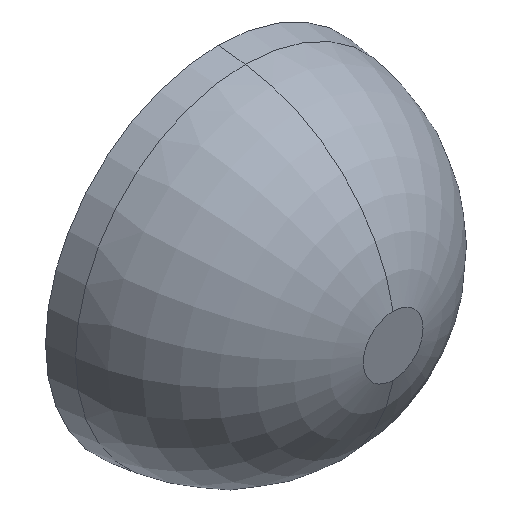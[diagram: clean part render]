
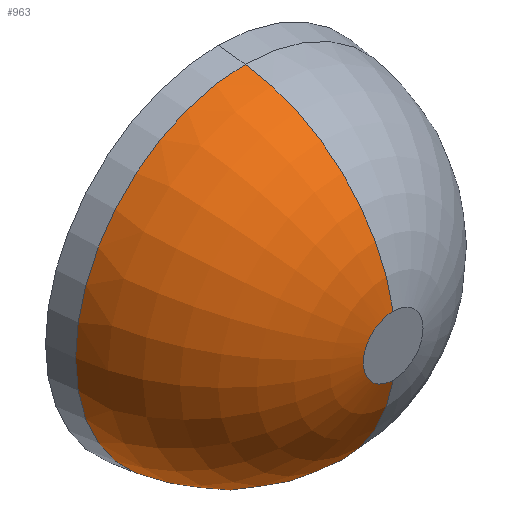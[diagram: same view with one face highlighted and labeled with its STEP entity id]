
A CAD part, isometric view. The second image highlights one B-rep face of the part: STEP entity #963.
In plain terms, the highlighted toroidal (fillet/blend) face has major radius 0.032 mm and minor radius 40 mm.
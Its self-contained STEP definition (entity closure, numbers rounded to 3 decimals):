
#11 = DIRECTION ( 'NONE',  ( 0., 0., 1. ) ) ;
#86 = ORIENTED_EDGE ( 'NONE', *, *, #967, .F. ) ;
#92 = CARTESIAN_POINT ( 'NONE',  ( 0., -1.612, 0. ) ) ;
#197 = AXIS2_PLACEMENT_3D ( 'NONE', #1504, #916, #11 ) ;
#210 = CIRCLE ( 'NONE', #1546, 40. ) ;
#221 = EDGE_CURVE ( 'NONE', #247, #2335, #210, .T. ) ;
#247 = VERTEX_POINT ( 'NONE', #988 ) ;
#443 = CIRCLE ( 'NONE', #2126, 39.756 ) ;
#461 = EDGE_CURVE ( 'NONE', #1607, #1358, #1587, .T. ) ;
#483 = ORIENTED_EDGE ( 'NONE', *, *, #461, .T. ) ;
#486 = EDGE_LOOP ( 'NONE', ( #2169, #1215, #483, #86 ) ) ;
#640 = DIRECTION ( 'NONE',  ( 0., 1., 0. ) ) ;
#779 = DIRECTION ( 'NONE',  ( 0., 0., -1. ) ) ;
#784 = TOROIDAL_SURFACE ( 'NONE', #855, 0.032, 40. ) ;
#794 = DIRECTION ( 'NONE',  ( 1., 0., 0. ) ) ;
#855 = AXIS2_PLACEMENT_3D ( 'NONE', #92, #640, #1052 ) ;
#870 = DIRECTION ( 'NONE',  ( 0., 0., 1. ) ) ;
#884 = DIRECTION ( 'NONE',  ( -1., 0., 0. ) ) ;
#898 = CARTESIAN_POINT ( 'NONE',  ( 0., -6.301, 0. ) ) ;
#916 = DIRECTION ( 'NONE',  ( 0., 1., 0. ) ) ;
#963 = ADVANCED_FACE ( 'NONE', ( #1182 ), #784, .T. ) ;
#967 = EDGE_CURVE ( 'NONE', #2335, #1358, #443, .T. ) ;
#988 = CARTESIAN_POINT ( 'NONE',  ( 0., -41., -7. ) ) ;
#1052 = DIRECTION ( 'NONE',  ( 0., 0., 1. ) ) ;
#1088 = CARTESIAN_POINT ( 'NONE',  ( 0., -6.301, 39.756 ) ) ;
#1093 = CARTESIAN_POINT ( 'NONE',  ( 0., -1.612, 0.032 ) ) ;
#1151 = CARTESIAN_POINT ( 'NONE',  ( 0., -1.612, -0.032 ) ) ;
#1182 = FACE_OUTER_BOUND ( 'NONE', #486, .T. ) ;
#1215 = ORIENTED_EDGE ( 'NONE', *, *, #1921, .T. ) ;
#1243 = DIRECTION ( 'NONE',  ( 0., 1., 0. ) ) ;
#1322 = AXIS2_PLACEMENT_3D ( 'NONE', #1093, #884, #870 ) ;
#1358 = VERTEX_POINT ( 'NONE', #1088 ) ;
#1496 = CARTESIAN_POINT ( 'NONE',  ( 0., -6.301, -39.756 ) ) ;
#1504 = CARTESIAN_POINT ( 'NONE',  ( 0., -41., 0. ) ) ;
#1546 = AXIS2_PLACEMENT_3D ( 'NONE', #1151, #794, #779 ) ;
#1587 = CIRCLE ( 'NONE', #1322, 40. ) ;
#1607 = VERTEX_POINT ( 'NONE', #2263 ) ;
#1623 = DIRECTION ( 'NONE',  ( 0., 0., 1. ) ) ;
#1921 = EDGE_CURVE ( 'NONE', #247, #1607, #1961, .T. ) ;
#1961 = CIRCLE ( 'NONE', #197, 7. ) ;
#2126 = AXIS2_PLACEMENT_3D ( 'NONE', #898, #1243, #1623 ) ;
#2169 = ORIENTED_EDGE ( 'NONE', *, *, #221, .F. ) ;
#2263 = CARTESIAN_POINT ( 'NONE',  ( 0., -41., 7. ) ) ;
#2335 = VERTEX_POINT ( 'NONE', #1496 ) ;
